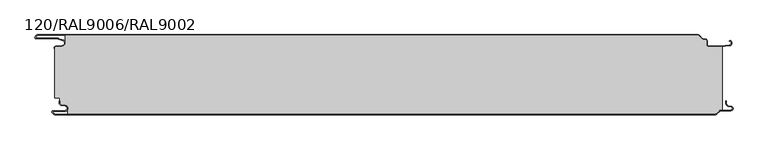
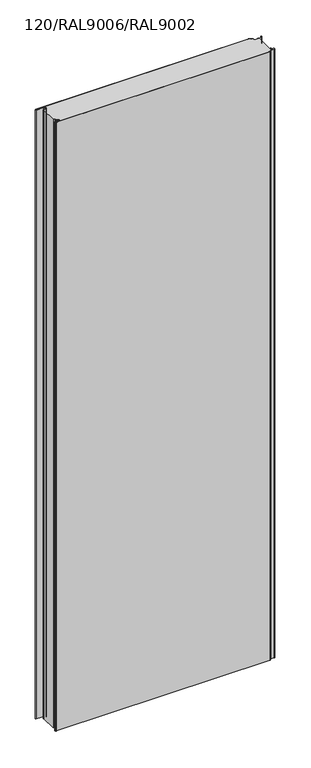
"""IFC4 building model written with IfcOpenShell, lengths in millimetres: plate geometry, TR_C_V_FHL_Panel : 120/RAL9006/RAL9002."""

from ifc_helpers import new_model, si_unit, point, frame_2d, origin, origin_with_axes, place, context, project, spatial, polyline, circle_curve, trimmed, segment, composite_curve, outline, extrude, source, transform, mapped, element, save


def plate_120_ral9006_ral9002_da41a48f(model_context):
    return source(origin(), model_context, "Body", "SweptSolid", [
        extrude(outline(composite_curve([segment(polyline([(-492.9, -99.0), (-492.1, -99.0), (-492.1, -102.3925589)]), True, "CONTINUOUS"), segment(trimmed(circle_curve(frame_2d((-489.15, -102.3925589)), 2.95), [point((-492.1, -102.3925589))], [point((-489.6622621, -105.2977418))], True, "CARTESIAN"), True, "CONTINUOUS"), segment(polyline([(-489.6622621, -105.2977418), (-483.6119952, -106.364567)]), True, "CONTINUOUS"), segment(trimmed(circle_curve(frame_2d((-484.35, -110.55)), 4.25), [point((-483.6119952, -106.364567))], [point((-484.35, -114.8))], False, "CARTESIAN"), True, "CONTINUOUS"), segment(polyline([(-484.35, -114.8), (-501.95, -114.8)]), True, "CONTINUOUS"), segment(trimmed(circle_curve(frame_2d((-501.95, -115.95)), 1.15), [point((-501.95, -114.8))], [point((-502.7631728, -116.7631728))], True, "CARTESIAN"), True, "CONTINUOUS"), segment(polyline([(-502.7631728, -116.7631728), (-500.8974874, -118.6288582)]), True, "CONTINUOUS"), segment(trimmed(circle_curve(frame_2d((-499.5186292, -117.25)), 1.95), [point((-500.8974874, -118.6288582))], [point((-499.5186292, -119.2))], True, "CARTESIAN"), True, "CONTINUOUS"), segment(polyline([(-499.5186292, -119.2), (489.8218254, -119.2)]), True, "CONTINUOUS"), segment(trimmed(circle_curve(frame_2d((489.8218254, -117.0)), 2.2), [point((489.8218254, -119.2))], [point((491.3774603, -118.5556349))], True, "CARTESIAN"), True, "CONTINUOUS"), segment(polyline([(491.3774603, -118.5556349), (495.7665476, -114.1665476)]), True, "CONTINUOUS"), segment(trimmed(circle_curve(frame_2d((498.1, -116.5)), 3.3), [point((495.7665476, -114.1665476))], [point((498.1, -113.2))], False, "CARTESIAN"), True, "CONTINUOUS"), segment(polyline([(498.1, -113.2), (512.85, -113.2)]), True, "CONTINUOUS"), segment(trimmed(circle_curve(frame_2d((512.85, -110.75)), 2.45), [point((512.85, -113.2))], [point((513.275438, -108.337221))], True, "CARTESIAN"), True, "CONTINUOUS"), segment(polyline([(513.275438, -108.337221), (509.0599008, -107.5939081)]), True, "CONTINUOUS"), segment(trimmed(circle_curve(frame_2d((509.85, -103.1130328)), 4.55), [point((509.0599008, -107.5939081))], [point((505.3, -103.1130328))], False, "CARTESIAN"), True, "CONTINUOUS"), segment(polyline([(505.3, -103.1130328), (505.3, -99.0), (506.1, -99.0), (506.1, -103.1130328)]), True, "CONTINUOUS"), segment(trimmed(circle_curve(frame_2d((509.85, -103.1130328)), 3.75), [point((506.1, -103.1130328))], [point((509.1988193, -106.8060618))], True, "CARTESIAN"), True, "CONTINUOUS"), segment(polyline([(509.1988193, -106.8060618), (513.4143566, -107.5493748)]), True, "CONTINUOUS"), segment(trimmed(circle_curve(frame_2d((512.85, -110.75)), 3.25), [point((513.4143566, -107.5493748))], [point((512.85, -114.0))], False, "CARTESIAN"), True, "CONTINUOUS"), segment(polyline([(512.85, -114.0), (498.1, -114.0)]), True, "CONTINUOUS"), segment(trimmed(circle_curve(frame_2d((498.1, -116.5)), 2.5), [point((498.1, -114.0))], [point((496.332233, -114.732233))], True, "CARTESIAN"), True, "CONTINUOUS"), segment(polyline([(496.332233, -114.732233), (491.9431458, -119.1213203)]), True, "CONTINUOUS"), segment(trimmed(circle_curve(frame_2d((489.8218254, -117.0)), 3.0), [point((491.9431458, -119.1213203))], [point((489.8218254, -120.0))], False, "CARTESIAN"), True, "CONTINUOUS"), segment(polyline([(489.8218254, -120.0), (-499.5186292, -120.0)]), True, "CONTINUOUS"), segment(trimmed(circle_curve(frame_2d((-499.5186292, -117.25)), 2.75), [point((-499.5186292, -120.0))], [point((-501.4631728, -119.1945436))], False, "CARTESIAN"), True, "CONTINUOUS"), segment(polyline([(-501.4631728, -119.1945436), (-503.3288582, -117.3288582)]), True, "CONTINUOUS"), segment(trimmed(circle_curve(frame_2d((-501.95, -115.95)), 1.95), [point((-503.3288582, -117.3288582))], [point((-501.95, -114.0))], False, "CARTESIAN"), True, "CONTINUOUS"), segment(polyline([(-501.95, -114.0), (-484.35, -114.0)]), True, "CONTINUOUS"), segment(trimmed(circle_curve(frame_2d((-484.35, -110.55)), 3.45), [point((-484.35, -114.0))], [point((-483.7509138, -107.1524133))], True, "CARTESIAN"), True, "CONTINUOUS"), segment(polyline([(-483.7509138, -107.1524133), (-489.8011807, -106.085588)]), True, "CONTINUOUS"), segment(trimmed(circle_curve(frame_2d((-489.15, -102.3925589)), 3.75), [point((-489.8011807, -106.085588))], [point((-492.9, -102.3925589))], False, "CARTESIAN"), True, "CONTINUOUS"), segment(polyline([(-492.9, -102.3925589), (-492.9, -99.0)]), True, "CONTINUOUS")], self_intersect=False)), origin_with_axes(), (0.0, 0.0, 1.0), 2980.0),
        extrude(outline(composite_curve([segment(polyline([(-480.1, -119.2), (-480.1, -110.55)]), True, "CONTINUOUS"), segment(trimmed(circle_curve(frame_2d((-484.35, -110.55)), 4.25), [point((-480.1, -110.55))], [point((-483.6119952, -106.364567))], True, "CARTESIAN"), True, "CONTINUOUS"), segment(polyline([(-483.6119952, -106.364567), (-489.6622621, -105.2977418)]), True, "CONTINUOUS"), segment(trimmed(circle_curve(frame_2d((-489.15, -102.3925589)), 2.95), [point((-489.6622621, -105.2977418))], [point((-492.1, -102.3925589))], False, "CARTESIAN"), True, "CONTINUOUS"), segment(polyline([(-492.1, -102.3925589), (-492.1, -94.86), (-500.0, -94.86), (-500.0, -20.8), (-499.9, -19.7908279)]), True, "CONTINUOUS"), segment(trimmed(circle_curve(frame_2d((-498.2, -19.7908279)), 1.7), [point((-499.9, -19.7908279))], [point((-498.3481648, -18.0972969))], False, "CARTESIAN"), True, "CONTINUOUS"), segment(polyline([(-498.3481648, -18.0972969), (-488.4735884, -17.2333835)]), True, "CONTINUOUS"), segment(trimmed(circle_curve(frame_2d((-488.9006516, -12.3520294)), 4.9), [point((-488.4735884, -17.2333835))], [point((-484.0006516, -12.3520294))], True, "CARTESIAN"), True, "CONTINUOUS"), segment(polyline([(-484.0006516, -12.3520294), (-484.0006516, -0.8), (463.4370797, -0.8)]), True, "CONTINUOUS"), segment(trimmed(circle_curve(frame_2d((463.4370797, -2.7)), 1.9), [point((463.4370797, -0.8))], [point((464.7805826, -1.3564971))], False, "CARTESIAN"), True, "CONTINUOUS"), segment(polyline([(464.7805826, -1.3564971), (469.6039845, -6.179899)]), True, "CONTINUOUS"), segment(trimmed(circle_curve(frame_2d((471.5838835, -4.2)), 2.8), [point((469.6039845, -6.179899))], [point((471.5838835, -7.0))], True, "CARTESIAN"), True, "CONTINUOUS"), segment(polyline([(471.5838835, -7.0), (474.4, -7.0)]), True, "CONTINUOUS"), segment(trimmed(circle_curve(frame_2d((474.4, -8.9)), 1.9), [point((474.4, -7.0))], [point((476.3, -8.9))], False, "CARTESIAN"), True, "CONTINUOUS"), segment(polyline([(476.3, -8.9), (476.3, -14.8)]), True, "CONTINUOUS"), segment(trimmed(circle_curve(frame_2d((479.1, -14.8)), 2.8), [point((476.3, -14.8))], [point((479.1, -17.6))], True, "CARTESIAN"), True, "CONTINUOUS"), segment(polyline([(479.1, -17.6), (498.2349288, -17.6), (500.0, -17.4455763), (500.0, -113.2), (498.1, -113.2)]), True, "CONTINUOUS"), segment(trimmed(circle_curve(frame_2d((498.1, -116.5)), 3.3), [point((498.1, -113.2))], [point((495.7665476, -114.1665476))], True, "CARTESIAN"), True, "CONTINUOUS"), segment(polyline([(495.7665476, -114.1665476), (491.3774603, -118.5556349)]), True, "CONTINUOUS"), segment(trimmed(circle_curve(frame_2d((489.8218254, -117.0)), 2.2), [point((491.3774603, -118.5556349))], [point((489.8218254, -119.2))], False, "CARTESIAN"), True, "CONTINUOUS"), segment(polyline([(489.8218254, -119.2), (-480.1, -119.2)]), True, "CONTINUOUS")], self_intersect=False)), origin_with_axes(), (0.0, 0.0, 1.0), 2980.0),
        extrude(outline(composite_curve([segment(trimmed(circle_curve(frame_2d((-525.1006169, -2.7)), 1.9), [point((-525.1006169, -0.8))], [point((-526.4901889, -1.4042031))], True, "CARTESIAN"), True, "CONTINUOUS"), segment(polyline([(-526.4901889, -1.4042031), (-528.3044891, -3.3498018)]), True, "CONTINUOUS"), segment(trimmed(circle_curve(frame_2d((-527.5, -4.1)), 1.1), [point((-528.3044891, -3.3498018))], [point((-527.5, -5.2))], True, "CARTESIAN"), True, "CONTINUOUS"), segment(polyline([(-527.5, -5.2), (-495.1732718, -5.2)]), True, "CONTINUOUS"), segment(trimmed(circle_curve(frame_2d((-495.1732718, -8.5)), 3.3), [point((-495.1732718, -5.2))], [point((-494.0988969, -5.3797887))], False, "CARTESIAN"), True, "CONTINUOUS"), segment(polyline([(-494.0988969, -5.3797887), (-487.3053676, -7.7189884)]), True, "CONTINUOUS"), segment(trimmed(circle_curve(frame_2d((-488.9006516, -12.3520294)), 4.9), [point((-487.3053676, -7.7189884))], [point((-488.4735884, -17.2333835))], False, "CARTESIAN"), True, "CONTINUOUS"), segment(polyline([(-488.4735884, -17.2333835), (-498.3481648, -18.0972969)]), True, "CONTINUOUS"), segment(trimmed(circle_curve(frame_2d((-498.2, -19.7908279)), 1.7), [point((-498.3481648, -18.0972969))], [point((-499.9, -19.7908279))], True, "CARTESIAN"), True, "CONTINUOUS"), segment(polyline([(-499.9, -19.7908279), (-499.9, -20.8), (-500.7, -20.8), (-500.7, -19.7908279)]), True, "CONTINUOUS"), segment(trimmed(circle_curve(frame_2d((-498.2, -19.7908279)), 2.5), [point((-500.7, -19.7908279))], [point((-498.4178894, -17.3003412))], False, "CARTESIAN"), True, "CONTINUOUS"), segment(polyline([(-498.4178894, -17.3003412), (-488.543313, -16.4364277)]), True, "CONTINUOUS"), segment(trimmed(circle_curve(frame_2d((-488.9006516, -12.3520294)), 4.1), [point((-488.543313, -16.4364277))], [point((-487.5658221, -8.4754033))], True, "CARTESIAN"), True, "CONTINUOUS"), segment(polyline([(-487.5658221, -8.4754033), (-494.3593514, -6.1362036)]), True, "CONTINUOUS"), segment(trimmed(circle_curve(frame_2d((-495.1732718, -8.5)), 2.5), [point((-494.3593514, -6.1362036))], [point((-495.1732718, -6.0))], True, "CARTESIAN"), True, "CONTINUOUS"), segment(polyline([(-495.1732718, -6.0), (-527.5, -6.0)]), True, "CONTINUOUS"), segment(trimmed(circle_curve(frame_2d((-527.5, -4.1)), 1.9), [point((-527.5, -6.0))], [point((-528.889572, -2.8042031))], False, "CARTESIAN"), True, "CONTINUOUS"), segment(polyline([(-528.889572, -2.8042031), (-527.0752719, -0.8586044)]), True, "CONTINUOUS"), segment(trimmed(circle_curve(frame_2d((-525.1006169, -2.7)), 2.7), [point((-527.0752719, -0.8586044))], [point((-525.1006169, 0.0))], False, "CARTESIAN"), True, "CONTINUOUS"), segment(polyline([(-525.1006169, 0.0), (463.4370797, 0.0)]), True, "CONTINUOUS"), segment(trimmed(circle_curve(frame_2d((463.4370797, -2.7)), 2.7), [point((463.4370797, 0.0))], [point((465.346268, -0.7908117))], False, "CARTESIAN"), True, "CONTINUOUS"), segment(polyline([(465.346268, -0.7908117), (470.1696699, -5.6142136)]), True, "CONTINUOUS"), segment(trimmed(circle_curve(frame_2d((471.5838835, -4.2)), 2.0), [point((470.1696699, -5.6142136))], [point((471.5838835, -6.2))], True, "CARTESIAN"), True, "CONTINUOUS"), segment(polyline([(471.5838835, -6.2), (474.4, -6.2)]), True, "CONTINUOUS"), segment(trimmed(circle_curve(frame_2d((474.4, -8.9)), 2.7), [point((474.4, -6.2))], [point((477.1, -8.9))], False, "CARTESIAN"), True, "CONTINUOUS"), segment(polyline([(477.1, -8.9), (477.1, -14.8)]), True, "CONTINUOUS"), segment(trimmed(circle_curve(frame_2d((479.1, -14.8)), 2.0), [point((477.1, -14.8))], [point((479.1, -16.8))], True, "CARTESIAN"), True, "CONTINUOUS"), segment(polyline([(479.1, -16.8), (498.2, -16.8), (510.6788984, -15.7082379)]), True, "CONTINUOUS"), segment(trimmed(circle_curve(frame_2d((510.4, -12.5204148)), 3.2), [point((510.6788984, -15.7082379))], [point((511.4418181, -9.4947554))], True, "CARTESIAN"), True, "CONTINUOUS"), segment(polyline([(511.4418181, -9.4947554), (510.5426332, -9.1851412), (510.8030877, -8.4287263), (511.7022726, -8.7383405)]), True, "CONTINUOUS"), segment(trimmed(circle_curve(frame_2d((510.4, -12.5204148)), 4.0), [point((511.7022726, -8.7383405))], [point((510.748623, -16.5051936))], False, "CARTESIAN"), True, "CONTINUOUS"), segment(polyline([(510.748623, -16.5051936), (498.2349288, -17.6), (479.1, -17.6)]), True, "CONTINUOUS"), segment(trimmed(circle_curve(frame_2d((479.1, -14.8)), 2.8), [point((479.1, -17.6))], [point((476.3, -14.8))], False, "CARTESIAN"), True, "CONTINUOUS"), segment(polyline([(476.3, -14.8), (476.3, -8.9)]), True, "CONTINUOUS"), segment(trimmed(circle_curve(frame_2d((474.4, -8.9)), 1.9), [point((476.3, -8.9))], [point((474.4, -7.0))], True, "CARTESIAN"), True, "CONTINUOUS"), segment(polyline([(474.4, -7.0), (471.5838835, -7.0)]), True, "CONTINUOUS"), segment(trimmed(circle_curve(frame_2d((471.5838835, -4.2)), 2.8), [point((471.5838835, -7.0))], [point((469.6039845, -6.179899))], False, "CARTESIAN"), True, "CONTINUOUS"), segment(polyline([(469.6039845, -6.179899), (464.7805826, -1.3564971)]), True, "CONTINUOUS"), segment(trimmed(circle_curve(frame_2d((463.4370797, -2.7)), 1.9), [point((464.7805826, -1.3564971))], [point((463.4370797, -0.8))], True, "CARTESIAN"), True, "CONTINUOUS"), segment(polyline([(463.4370797, -0.8), (-525.1006169, -0.8)]), True, "CONTINUOUS")], self_intersect=False)), origin_with_axes(), (0.0, 0.0, 1.0), 2980.0),
    ])


if __name__ == "__main__":
    model = new_model("IFC4")
    model_context = context("Model", 3, world=origin())
    ifc_project = project(units=[si_unit("LENGTHUNIT", "METRE", prefix="MILLI")], contexts=[model_context])
    site = spatial("IfcSite", under=ifc_project)
    building = spatial("IfcBuilding", under=site)
    placement = place(None, origin())
    plate_120_ral9006_ral9002_shape = plate_120_ral9006_ral9002_da41a48f(model_context)
    element("IfcPlate", 1, ObjectType="TR_C_V_FHL_Panel : 120/RAL9006/RAL9002", at=placement, inside=building, context=model_context, shape_type="MappedRepresentation", body=[
        mapped(plate_120_ral9006_ral9002_shape, transform((0.0, 0.0, 0.0), x_axis=(1.0, 0.0, 0.0), y_axis=(0.0, 1.0, 0.0), z_axis=(0.0, 0.0, 1.0))),
    ])
    save(model, "model.ifc")
